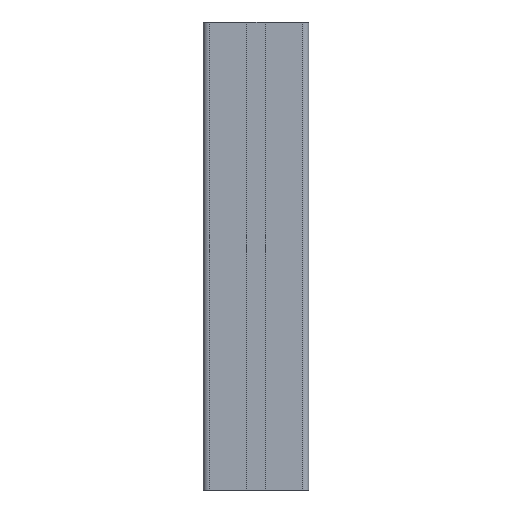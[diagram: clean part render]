
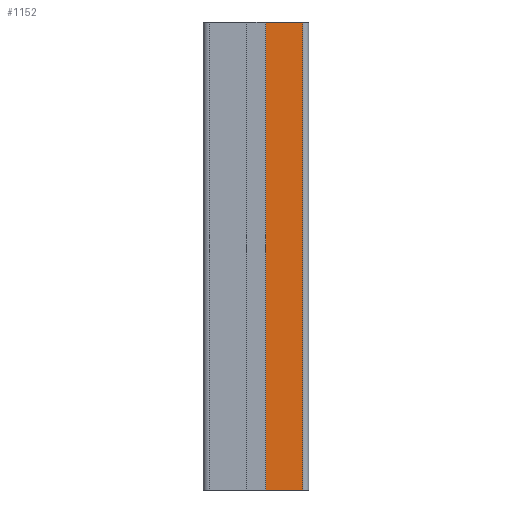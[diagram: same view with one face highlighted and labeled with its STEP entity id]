
A CAD part, front view. The second image highlights one B-rep face of the part: STEP entity #1152.
In plain terms, the highlighted planar face has unit normal (0, -1, 0).
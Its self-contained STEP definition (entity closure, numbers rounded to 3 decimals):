
#44 = EDGE_CURVE ( 'NONE', #2770, #1230, #982, .T. ) ;
#49 = EDGE_CURVE ( 'NONE', #2610, #2472, #998, .T. ) ;
#185 = DIRECTION ( 'NONE',  ( 0., 0., 1. ) ) ;
#194 = VECTOR ( 'NONE', #332, 1000. ) ;
#332 = DIRECTION ( 'NONE',  ( 1., 0., 0. ) ) ;
#597 = CARTESIAN_POINT ( 'NONE',  ( 4.3, -21.877, 0. ) ) ;
#782 = CARTESIAN_POINT ( 'NONE',  ( 4.3, -21.877, 200. ) ) ;
#800 = CARTESIAN_POINT ( 'NONE',  ( 20.2, -21.877, 200. ) ) ;
#815 = DIRECTION ( 'NONE',  ( 0., 0., -1. ) ) ;
#846 = DIRECTION ( 'NONE',  ( 0., 0., -1. ) ) ;
#948 = LINE ( 'NONE', #1974, #988 ) ;
#971 = VECTOR ( 'NONE', #846, 1000. ) ;
#975 = VECTOR ( 'NONE', #815, 1000. ) ;
#982 = LINE ( 'NONE', #782, #975 ) ;
#988 = VECTOR ( 'NONE', #1511, 1000. ) ;
#998 = LINE ( 'NONE', #800, #971 ) ;
#1152 = ADVANCED_FACE ( 'NONE', ( #2075 ), #1393, .F. ) ;
#1158 = AXIS2_PLACEMENT_3D ( 'NONE', #1785, #1647, #185 ) ;
#1198 = ORIENTED_EDGE ( 'NONE', *, *, #44, .T. ) ;
#1230 = VERTEX_POINT ( 'NONE', #597 ) ;
#1393 = PLANE ( 'NONE',  #1158 ) ;
#1453 = EDGE_CURVE ( 'NONE', #2770, #2610, #948, .T. ) ;
#1511 = DIRECTION ( 'NONE',  ( 1., 0., 0. ) ) ;
#1622 = ORIENTED_EDGE ( 'NONE', *, *, #1453, .F. ) ;
#1647 = DIRECTION ( 'NONE',  ( 0., 1., 0. ) ) ;
#1678 = CARTESIAN_POINT ( 'NONE',  ( 20.2, -21.877, 200. ) ) ;
#1785 = CARTESIAN_POINT ( 'NONE',  ( 4.3, -21.877, 200. ) ) ;
#1795 = EDGE_CURVE ( 'NONE', #1230, #2472, #3026, .T. ) ;
#1806 = EDGE_LOOP ( 'NONE', ( #2111, #2361, #1622, #1198 ) ) ;
#1821 = CARTESIAN_POINT ( 'NONE',  ( 4.3, -21.877, 0. ) ) ;
#1858 = CARTESIAN_POINT ( 'NONE',  ( 20.2, -21.877, 0. ) ) ;
#1925 = CARTESIAN_POINT ( 'NONE',  ( 4.3, -21.877, 200. ) ) ;
#1974 = CARTESIAN_POINT ( 'NONE',  ( 4.3, -21.877, 200. ) ) ;
#2075 = FACE_OUTER_BOUND ( 'NONE', #1806, .T. ) ;
#2111 = ORIENTED_EDGE ( 'NONE', *, *, #1795, .T. ) ;
#2361 = ORIENTED_EDGE ( 'NONE', *, *, #49, .F. ) ;
#2472 = VERTEX_POINT ( 'NONE', #1858 ) ;
#2610 = VERTEX_POINT ( 'NONE', #1678 ) ;
#2770 = VERTEX_POINT ( 'NONE', #1925 ) ;
#3026 = LINE ( 'NONE', #1821, #194 ) ;
